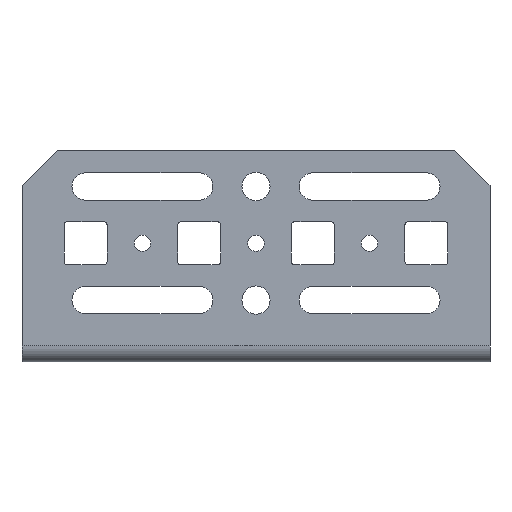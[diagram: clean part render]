
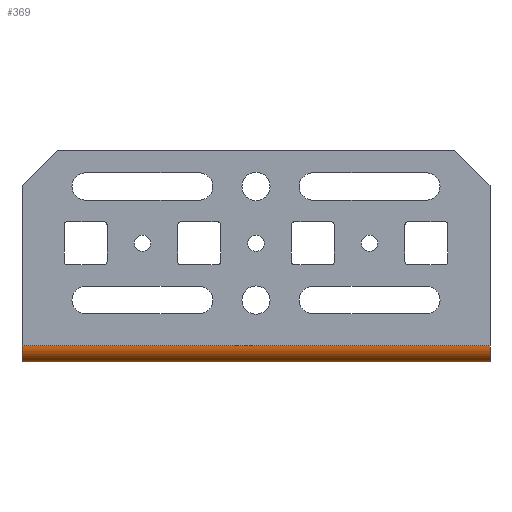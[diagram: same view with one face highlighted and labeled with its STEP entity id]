
A CAD part, front view. The second image highlights one B-rep face of the part: STEP entity #369.
In plain terms, the highlighted cylindrical face has radius 3.5 mm (diameter 7 mm), a partial arc.
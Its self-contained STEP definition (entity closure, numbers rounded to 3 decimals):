
#62 = CIRCLE ( 'NONE', #3537, 3.5 ) ;
#64 = CIRCLE ( 'NONE', #3410, 3.5 ) ;
#293 = EDGE_CURVE ( 'NONE', #5386, #5344, #62, .T. ) ;
#295 = EDGE_CURVE ( 'NONE', #5070, #5284, #64, .T. ) ;
#298 = EDGE_CURVE ( 'NONE', #5344, #5070, #981, .T. ) ;
#369 = ADVANCED_FACE ( 'NONE', ( #3614 ), #3606, .T. ) ;
#866 = EDGE_CURVE ( 'NONE', #5386, #5284, #2145, .T. ) ;
#974 = CARTESIAN_POINT ( 'NONE',  ( 51.5, 3.5, 0. ) ) ;
#978 = DIRECTION ( 'NONE',  ( -1., 0., 0. ) ) ;
#981 = LINE ( 'NONE', #974, #3449 ) ;
#994 = DIRECTION ( 'NONE',  ( -1., 0., 0. ) ) ;
#998 = DIRECTION ( 'NONE',  ( 0., 0., -1. ) ) ;
#1004 = DIRECTION ( 'NONE',  ( 0., 0., -1. ) ) ;
#1008 = CARTESIAN_POINT ( 'NONE',  ( -51.5, 3.5, 3.5 ) ) ;
#1009 = CARTESIAN_POINT ( 'NONE',  ( 51.5, 3.5, 3.5 ) ) ;
#1011 = DIRECTION ( 'NONE',  ( 1., 0., 0. ) ) ;
#1139 = EDGE_LOOP ( 'NONE', ( #5066, #5067, #5068, #5065 ) ) ;
#1722 = DIRECTION ( 'NONE',  ( 0., 0., -1. ) ) ;
#1723 = DIRECTION ( 'NONE',  ( 1., 0., 0. ) ) ;
#1725 = CARTESIAN_POINT ( 'NONE',  ( -103.083, 3.5, 3.5 ) ) ;
#2143 = DIRECTION ( 'NONE',  ( -1., 0., 0. ) ) ;
#2144 = CARTESIAN_POINT ( 'NONE',  ( 51.5, 0., 3.5 ) ) ;
#2145 = LINE ( 'NONE', #2144, #6183 ) ;
#3410 = AXIS2_PLACEMENT_3D ( 'NONE', #1008, #994, #998 ) ;
#3449 = VECTOR ( 'NONE', #978, 1000. ) ;
#3537 = AXIS2_PLACEMENT_3D ( 'NONE', #1009, #1011, #1004 ) ;
#3606 = CYLINDRICAL_SURFACE ( 'NONE', #3607, 3.5 ) ;
#3607 = AXIS2_PLACEMENT_3D ( 'NONE', #1725, #1723, #1722 ) ;
#3614 = FACE_OUTER_BOUND ( 'NONE', #1139, .T. ) ;
#5065 = ORIENTED_EDGE ( 'NONE', *, *, #866, .T. ) ;
#5066 = ORIENTED_EDGE ( 'NONE', *, *, #295, .F. ) ;
#5067 = ORIENTED_EDGE ( 'NONE', *, *, #298, .F. ) ;
#5068 = ORIENTED_EDGE ( 'NONE', *, *, #293, .F. ) ;
#5070 = VERTEX_POINT ( 'NONE', #5847 ) ;
#5284 = VERTEX_POINT ( 'NONE', #5720 ) ;
#5344 = VERTEX_POINT ( 'NONE', #6070 ) ;
#5386 = VERTEX_POINT ( 'NONE', #6088 ) ;
#5720 = CARTESIAN_POINT ( 'NONE',  ( -51.5, 0., 3.5 ) ) ;
#5847 = CARTESIAN_POINT ( 'NONE',  ( -51.5, 3.5, 0. ) ) ;
#6070 = CARTESIAN_POINT ( 'NONE',  ( 51.5, 3.5, 0. ) ) ;
#6088 = CARTESIAN_POINT ( 'NONE',  ( 51.5, 0., 3.5 ) ) ;
#6183 = VECTOR ( 'NONE', #2143, 1000. ) ;
